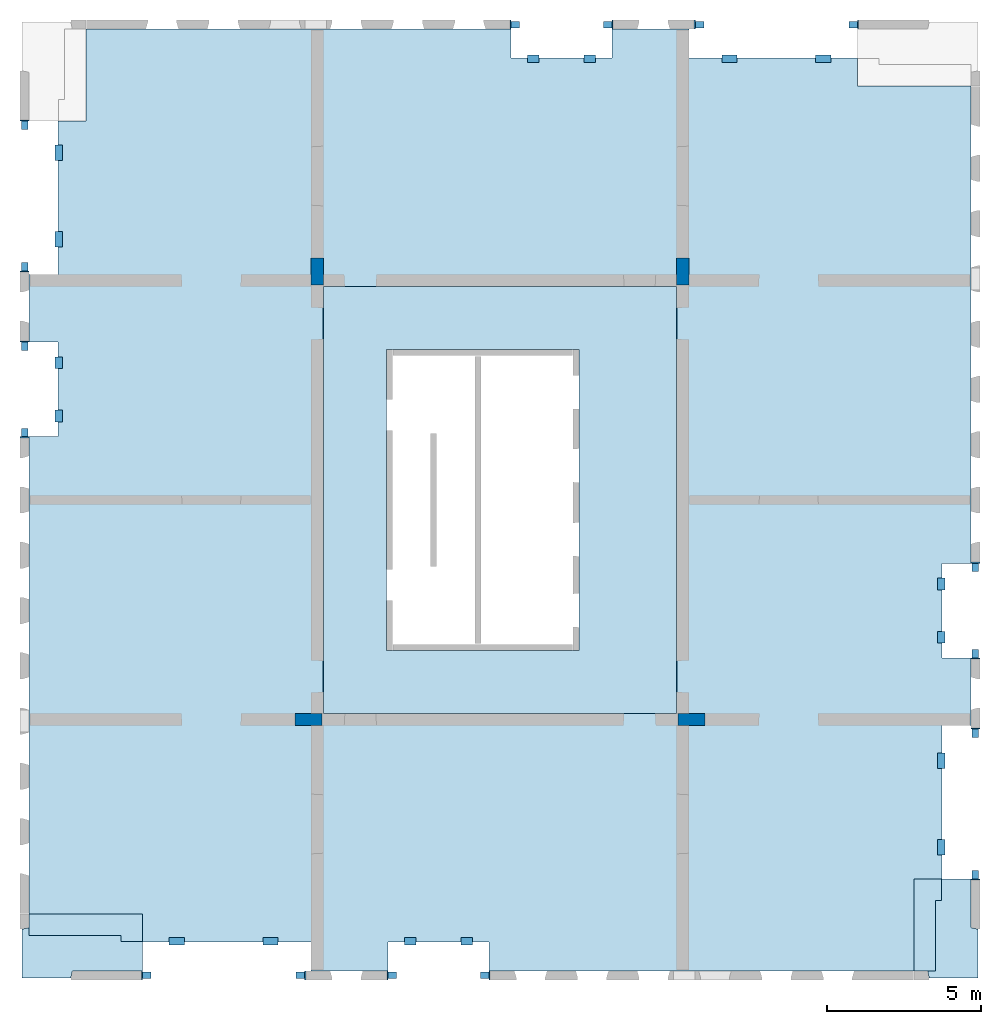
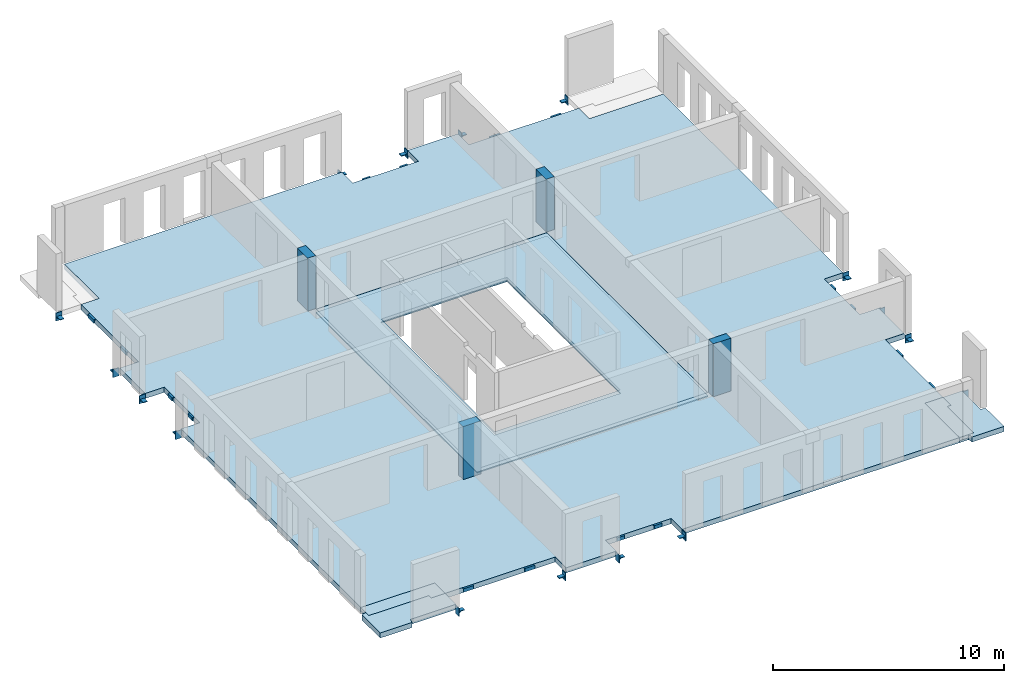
# One storey, part 1 of 4: 32 beams, 7 slabs, 4 columns, 3 openings.
"""IFC2X3 building model written with IfcOpenShell, lengths in millimetres."""

import ifcopenshell
import ifcopenshell.guid

model = None  # the IFC model being written
_history = None  # IfcOwnerHistory: only IFC2X3 demands one
_inside = {}  # id of a spatial element -> (the spatial element, [elements in it])
_under = {}  # id of a project, library or spatial element -> (it, [spatial elements below it])
_declared = {}  # id of a project -> (the project, [libraries it declares])
_typed = {}  # id of a type object -> (the type object, [elements of that type])
_made_of = {}  # id of a material, layer set ... -> (it, [elements and type objects made of it])


def new_model(schema):
    """Start an empty IFC model of exactly this schema.

    Asked for "IFC4X3", IfcOpenShell would pick the latest addendum, in which some entities
    have other attributes; the version numbers below select the first issue.
    IFC2X3 requires an IfcOwnerHistory on every rooted entity: one is made here for all.
    """
    global model, _history
    if schema == "IFC4X3":
        model = ifcopenshell.file(schema_version=(4, 3, 0, 0))
    else:
        model = ifcopenshell.file(schema=schema)
    _inside.clear()
    _under.clear()
    _declared.clear()
    _typed.clear()
    _made_of.clear()
    _history = None
    if model.schema == "IFC2X3":
        org = make("IfcOrganization", Name="unknown")
        user = make(
            "IfcPersonAndOrganization",
            ThePerson=make("IfcPerson", FamilyName="unknown"),
            TheOrganization=org,
        )
        app = make(
            "IfcApplication",
            ApplicationDeveloper=org,
            Version="unknown",
            ApplicationFullName="unknown",
            ApplicationIdentifier="unknown",
        )
        _history = make(
            "IfcOwnerHistory",
            OwningUser=user,
            OwningApplication=app,
            ChangeAction="ADDED",
            CreationDate=0,
        )
    return model


def make(cls, **values):
    """One entity of the class cls with the attributes given. An attribute that is None is left unset."""
    return model.create_entity(
        cls, **{name: value for name, value in values.items() if value is not None}
    )


def entity(cls, *values):
    """Any entity or typed value of the class cls, its attributes in the order of the schema. None: left unset."""
    e = model.create_entity(cls)
    for i, value in enumerate(values):
        if value is not None:
            e[i] = value
    return e


def rooted(cls, **values):
    """An entity with a GlobalId (a new one), such as an element, a storey or a relation."""
    return make(cls, GlobalId=ifcopenshell.guid.new(), OwnerHistory=_history, **values)


def si_unit(unit_type, name, prefix=None):
    """IfcSIUnit, for example si_unit("LENGTHUNIT", "METRE", prefix="MILLI")."""
    return make("IfcSIUnit", UnitType=unit_type, Prefix=prefix, Name=name)


def converted_unit(unit_type, name, factor, base, dimensions=None, offset=None):
    """IfcConversionBasedUnit, such as the inch: factor (a typed value) times the base unit."""
    return make(
        "IfcConversionBasedUnit"
        if offset is None
        else "IfcConversionBasedUnitWithOffset",
        ConversionOffset=offset,
        Dimensions=None
        if dimensions is None
        else entity("IfcDimensionalExponents", *dimensions),
        UnitType=unit_type,
        Name=name,
        ConversionFactor=make(
            "IfcMeasureWithUnit", ValueComponent=factor, UnitComponent=base
        ),
    )


def derived_unit(unit_type, elements):
    """IfcDerivedUnit: a product of units, each with its exponent."""
    return make(
        "IfcDerivedUnit",
        Elements=[
            make("IfcDerivedUnitElement", Unit=unit, Exponent=power)
            for unit, power in elements
        ],
        UnitType=unit_type,
    )


def assignment(units):
    """IfcUnitAssignment: the units of a project."""
    return None if units is None else make("IfcUnitAssignment", Units=units)


def point(xyz):
    """IfcCartesianPoint."""
    return None if xyz is None else make("IfcCartesianPoint", Coordinates=xyz)


def direction(xyz):
    """IfcDirection."""
    return None if xyz is None else make("IfcDirection", DirectionRatios=xyz)


def frame(location, z_axis=None, x_axis=None):
    """IfcAxis2Placement3D, a coordinate frame: its origin and axes. An axis left out is left unset."""
    return make(
        "IfcAxis2Placement3D",
        Location=point(location),
        Axis=direction(z_axis),
        RefDirection=direction(x_axis),
    )


def frame_2d(location, x_axis=None):
    """IfcAxis2Placement2D, a coordinate frame in the plane: its origin and x axis."""
    return make(
        "IfcAxis2Placement2D", Location=point(location), RefDirection=direction(x_axis)
    )


def origin():
    """The frame at (0, 0, 0) with its axes left unset."""
    return frame((0.0, 0.0, 0.0))


def origin_2d_with_axis():
    """The frame at (0, 0) in the plane with the x axis (1, 0) written out."""
    return frame_2d((0.0, 0.0), x_axis=(1.0, 0.0))


def place(relative_to, where):
    """IfcLocalPlacement: puts the frame where relative to a parent placement (None: the world)."""
    return make(
        "IfcLocalPlacement", PlacementRelTo=relative_to, RelativePlacement=where
    )


def context(
    kind, dimensions, precision=None, world=None, true_north=None, identifier=None
):
    """IfcGeometricRepresentationContext, for example the 3D "Model" context."""
    return make(
        "IfcGeometricRepresentationContext",
        ContextIdentifier=identifier,
        ContextType=kind,
        CoordinateSpaceDimension=dimensions,
        Precision=precision,
        WorldCoordinateSystem=world,
        TrueNorth=true_north,
    )


def subcontext(parent, identifier, kind, view, scale=None):
    """IfcGeometricRepresentationSubContext, for example "Body" below "Model"."""
    return make(
        "IfcGeometricRepresentationSubContext",
        ContextIdentifier=identifier,
        ContextType=kind,
        ParentContext=parent,
        TargetScale=scale,
        TargetView=view,
    )


def project(units=None, contexts=None):
    """IfcProject with its units and contexts."""
    return rooted(
        "IfcProject",
        Name="project",
        RepresentationContexts=contexts,
        UnitsInContext=assignment(units),
    )


def spatial(cls, under=None, at=None, **own):
    """A site, building, storey or space (cls), placed at a placement, below another one or the project."""
    s = rooted(cls, ObjectPlacement=at, **own)
    if under is not None:
        _under.setdefault(under.id(), (under, []))[1].append(s)
    return s


def polyline(points):
    """IfcPolyline through the points."""
    return make("IfcPolyline", Points=[point(p) for p in points])


def profile(cls, at=None, kind="AREA", **sizes):
    """A parametric profile (cls). Its sizes go by their IFC names, for example OverallWidth=200.0."""
    return make(cls, ProfileType=kind, Position=at, **sizes)


def rectangle(**sizes):
    """IfcRectangleProfileDef."""
    return profile("IfcRectangleProfileDef", **sizes)


def outline(outer, holes=None, kind="AREA"):
    """IfcArbitraryClosedProfileDef: a profile drawn as a closed curve; with holes, ...WithVoids."""
    if holes is None:
        return make("IfcArbitraryClosedProfileDef", ProfileType=kind, OuterCurve=outer)
    return make(
        "IfcArbitraryProfileDefWithVoids",
        ProfileType=kind,
        OuterCurve=outer,
        InnerCurves=holes,
    )


def extrude(swept, where, along, depth):
    """IfcExtrudedAreaSolid: the profile swept, set in the frame where, extruded along a direction by depth."""
    return make(
        "IfcExtrudedAreaSolid",
        SweptArea=swept,
        Position=where,
        ExtrudedDirection=direction(along),
        Depth=depth,
    )


def shape(context_of_items, identifier, shape_type, items):
    """IfcShapeRepresentation: the items that make up one representation, for example the "Body"."""
    return make(
        "IfcShapeRepresentation",
        ContextOfItems=context_of_items,
        RepresentationIdentifier=identifier,
        RepresentationType=shape_type,
        Items=items,
    )


def source(mapping_origin, context_of_items, identifier, shape_type, items):
    """IfcRepresentationMap: a shape defined once, which mapped items show again and again."""
    return make(
        "IfcRepresentationMap",
        MappingOrigin=mapping_origin,
        MappedRepresentation=shape(context_of_items, identifier, shape_type, items),
    )


def transform(
    local_origin,
    x_axis=None,
    y_axis=None,
    z_axis=None,
    scale=None,
    scale2=None,
    scale3=None,
    uniform=True,
):
    """IfcCartesianTransformationOperator3D, or its non-uniform kind. x_axis, y_axis, z_axis: its Axis1, 2, 3."""
    if uniform:
        return make(
            "IfcCartesianTransformationOperator3D",
            Axis1=direction(x_axis),
            Axis2=direction(y_axis),
            LocalOrigin=point(local_origin),
            Scale=scale,
            Axis3=direction(z_axis),
        )
    return make(
        "IfcCartesianTransformationOperator3DnonUniform",
        Axis1=direction(x_axis),
        Axis2=direction(y_axis),
        LocalOrigin=point(local_origin),
        Scale=scale,
        Axis3=direction(z_axis),
        Scale2=scale2,
        Scale3=scale3,
    )


def mapped(mapping_source, mapping_target):
    """IfcMappedItem: shows the shape of a source again, moved by a transform."""
    return make(
        "IfcMappedItem", MappingSource=mapping_source, MappingTarget=mapping_target
    )


def material(Name=None, Category=None):
    """IfcMaterial."""
    return make("IfcMaterial", Name=Name, Category=Category)


def layer(
    of_material, thickness, ventilated=None, Name=None, Category=None, Priority=None
):
    """IfcMaterialLayer: one layer of a wall or slab, of a material (None: an air gap)."""
    return make(
        "IfcMaterialLayer",
        Material=of_material,
        LayerThickness=thickness,
        IsVentilated=ventilated,
        Name=Name,
        Category=Category,
        Priority=Priority,
    )


def layer_set(layers, Name=None):
    """IfcMaterialLayerSet."""
    return make("IfcMaterialLayerSet", MaterialLayers=layers, LayerSetName=Name)


def layer_usage(for_layer_set, set_direction, sense, offset, extent=None):
    """IfcMaterialLayerSetUsage: how a layer set lies in its element."""
    return make(
        "IfcMaterialLayerSetUsage",
        ForLayerSet=for_layer_set,
        LayerSetDirection=set_direction,
        DirectionSense=sense,
        OffsetFromReferenceLine=offset,
        ReferenceExtent=extent,
    )


def made_of(thing, what):
    """Note that an element or type object is made of a material, layer set ...; save() writes the relation."""
    if what is not None:
        _made_of.setdefault(what.id(), (what, []))[1].append(thing)
    return thing


def type_object(cls, material=None, **own):
    """A type object (cls), such as IfcWallType, which elements share."""
    return made_of(rooted(cls, **own), material)


def type_shapes(of_type, sources):
    """Give a type object the sources (RepresentationMaps) that its elements show as mapped items."""
    of_type.RepresentationMaps = sources


def element(
    cls,
    number,
    at=None,
    inside=None,
    cuts=None,
    type_object=None,
    material=None,
    context=None,
    identifier="Body",
    shape_type=None,
    held_by="IfcProductDefinitionShape",
    body=None,
    shapes=None,
    **own,
):
    """One element of the class cls, such as IfcWall. Its Tag is "e" and its number.

    at: its placement. inside: the storey or other place that contains it. cuts: it is an
    opening in that element (IfcRelVoidsElement). A single representation is given by context,
    identifier, shape_type and body (its items); several are given by shapes. held_by: the class
    of the entity that holds the representations. save() writes the other relations.
    """
    e = rooted(cls, Tag="e%d" % number, ObjectPlacement=at, **own)
    if body is not None:
        shapes = [shape(context, identifier, shape_type, body)]
    if shapes is not None:
        e.Representation = make(held_by, Representations=shapes)
    if inside is not None:
        _inside.setdefault(inside.id(), (inside, []))[1].append(e)
    if cuts is not None:
        rooted(
            "IfcRelVoidsElement", RelatingBuildingElement=cuts, RelatedOpeningElement=e
        )
    if type_object is not None:
        _typed.setdefault(type_object.id(), (type_object, []))[1].append(e)
    return made_of(e, material)


def aggregate(whole, parts):
    """IfcRelAggregates: a whole, such as a stair, and the parts it consists of."""
    return rooted("IfcRelAggregates", RelatingObject=whole, RelatedObjects=parts)


def save(model, path):
    """Write the relations noted so far, then the file.

    IfcRelAggregates (storeys below a building ...), IfcRelContainedInSpatialStructure (elements
    in a storey), IfcRelDefinesByType, IfcRelAssociatesMaterial and IfcRelDeclares: one each for
    every whole, place, type object, material and project.
    """
    for whole, parts in _under.values():
        aggregate(whole, parts)
    for where, things in _inside.values():
        rooted(
            "IfcRelContainedInSpatialStructure",
            RelatedElements=things,
            RelatingStructure=where,
        )
    for kind, things in _typed.values():
        rooted("IfcRelDefinesByType", RelatedObjects=things, RelatingType=kind)
    for what, things in _made_of.values():
        rooted("IfcRelAssociatesMaterial", RelatedObjects=things, RelatingMaterial=what)
    for by, libraries in _declared.values():
        rooted("IfcRelDeclares", RelatingContext=by, RelatedDefinitions=libraries)
    model.write(path)


model = new_model("IFC2X3")

# Units and contexts
model_context = context("Model", 3, precision=0.01, world=origin(), true_north=direction((6.12303176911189e-17, 1.0)))
body_context = subcontext(model_context, "Body", "Model", "MODEL_VIEW")
ifc_project = project(units=[si_unit("LENGTHUNIT", "METRE", prefix="MILLI"), si_unit("AREAUNIT", "SQUARE_METRE"), si_unit("VOLUMEUNIT", "CUBIC_METRE"), converted_unit("PLANEANGLEUNIT", "DEGREE", entity("IfcRatioMeasure", 0.0174532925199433), si_unit("PLANEANGLEUNIT", "RADIAN"), dimensions=[0, 0, 0, 0, 0, 0, 0]), si_unit("MASSUNIT", "GRAM", prefix="KILO"), derived_unit("MASSDENSITYUNIT", [(si_unit("MASSUNIT", "GRAM", prefix="KILO"), 1), (si_unit("LENGTHUNIT", "METRE"), -3)]), si_unit("TIMEUNIT", "SECOND"), si_unit("FREQUENCYUNIT", "HERTZ"), si_unit("THERMODYNAMICTEMPERATUREUNIT", "DEGREE_CELSIUS"), derived_unit("THERMALTRANSMITTANCEUNIT", [(si_unit("MASSUNIT", "GRAM", prefix="KILO"), 1), (si_unit("THERMODYNAMICTEMPERATUREUNIT", "KELVIN"), -1), (si_unit("TIMEUNIT", "SECOND"), -3)]), derived_unit("VOLUMETRICFLOWRATEUNIT", [(si_unit("LENGTHUNIT", "METRE"), 3), (si_unit("TIMEUNIT", "SECOND"), -1)]), si_unit("ELECTRICCURRENTUNIT", "AMPERE"), si_unit("ELECTRICVOLTAGEUNIT", "VOLT"), si_unit("POWERUNIT", "WATT"), si_unit("FORCEUNIT", "NEWTON", prefix="KILO"), si_unit("ILLUMINANCEUNIT", "LUX"), si_unit("LUMINOUSFLUXUNIT", "LUMEN"), si_unit("LUMINOUSINTENSITYUNIT", "CANDELA"), derived_unit("USERDEFINED", [(si_unit("MASSUNIT", "GRAM", prefix="KILO"), -1), (si_unit("LENGTHUNIT", "METRE"), -2), (si_unit("TIMEUNIT", "SECOND"), 3), (si_unit("LUMINOUSFLUXUNIT", "LUMEN"), 1)]), derived_unit("LINEARVELOCITYUNIT", [(si_unit("LENGTHUNIT", "METRE"), 1), (si_unit("TIMEUNIT", "SECOND"), -1)]), si_unit("PRESSUREUNIT", "PASCAL"), derived_unit("USERDEFINED", [(si_unit("LENGTHUNIT", "METRE"), -2), (si_unit("MASSUNIT", "GRAM", prefix="KILO"), 1), (si_unit("TIMEUNIT", "SECOND"), -2)])], contexts=[model_context])

# Site, building, storey
site_placement = place(None, origin())
site = spatial("IfcSite", under=ifc_project, at=site_placement, Name="Default", CompositionType="ELEMENT")
building_placement = place(site_placement, origin())
building = spatial("IfcBuilding", under=site, at=building_placement, Name="niet gebruiken", CompositionType="ELEMENT")
storey_placement = place(building_placement, frame((0.0, 0.0, 88380.0)))
storey = spatial("IfcBuildingStorey", under=building, at=storey_placement, Name="28 achtentwintigste verdieping", CompositionType="ELEMENT", Elevation=88380.0000000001)

# Columns
ifc_material_1 = material(Name="NLRS_f2_beton ihwg")
column_type_1 = type_object("IfcColumnType", Name="400x880", PredefinedType="COLUMN", material=ifc_material_1)
shared_shape_1 = source(origin(), body_context, "Body", "SweptSolid", [
    extrude(rectangle(XDim=879.999999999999, YDim=399.999999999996, at=origin_2d_with_axis()), frame((135800.0, 24940.0, 88290.0), z_axis=(0.0, 0.0, 1.0), x_axis=(0.0, -1.0, 0.0)), (0.0, 0.0, 1.0), 2789.99999999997),
])
type_shapes(column_type_1, [shared_shape_1])
column_1_placement = place(storey_placement, frame((0.0, 0.0, -88380.0)))
element("IfcColumn", 1, at=column_1_placement, inside=storey, type_object=column_type_1, material=ifc_material_1, Name="NLRS_28.11_SCO_TLB_beton kolom ihwg_gen:400x880", ObjectType="400x880", context=body_context, shape_type="MappedRepresentation", body=[
    mapped(shared_shape_1, transform((0.0, 0.0, 0.0), scale=1.0)),
])
column_type_2 = type_object("IfcColumnType", Name="400x880", PredefinedType="COLUMN", material=ifc_material_1)
shared_shape_2 = source(origin(), body_context, "Body", "SweptSolid", [
    extrude(rectangle(XDim=879.999999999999, YDim=399.999999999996, at=origin_2d_with_axis()), frame((147700.0, 24940.0, 88290.0), z_axis=(0.0, 0.0, 1.0), x_axis=(0.0, -1.0, 0.0)), (0.0, 0.0, 1.0), 2789.99999999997),
])
type_shapes(column_type_2, [shared_shape_2])
column_2_placement = place(storey_placement, frame((0.0, 0.0, -88380.0)))
element("IfcColumn", 2, at=column_2_placement, inside=storey, type_object=column_type_2, material=ifc_material_1, Name="NLRS_28.11_SCO_TLB_beton kolom ihwg_gen:400x880", ObjectType="400x880", context=body_context, shape_type="MappedRepresentation", body=[
    mapped(shared_shape_2, transform((0.0, 0.0, 0.0), scale=1.0)),
])
column_type_3 = type_object("IfcColumnType", Name="400x880", PredefinedType="COLUMN", material=ifc_material_1)
shared_shape_3 = source(origin(), body_context, "Body", "SweptSolid", [
    extrude(rectangle(XDim=400.000000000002, YDim=880.000000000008, at=origin_2d_with_axis()), frame((135508.750788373, 10350.0, 88290.0), z_axis=(0.0, 0.0, 1.0), x_axis=(0.0, -1.0, 0.0)), (0.0, 0.0, 1.0), 2789.99999999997),
])
type_shapes(column_type_3, [shared_shape_3])
column_3_placement = place(storey_placement, frame((0.0, 0.0, -88380.0)))
element("IfcColumn", 3, at=column_3_placement, inside=storey, type_object=column_type_3, material=ifc_material_1, Name="NLRS_28.11_SCO_TLB_beton kolom ihwg_gen:400x880", ObjectType="400x880", context=body_context, shape_type="MappedRepresentation", body=[
    mapped(shared_shape_3, transform((0.0, 0.0, 0.0), scale=1.0)),
])
column_type_4 = type_object("IfcColumnType", Name="400x880", PredefinedType="COLUMN", material=ifc_material_1)
shared_shape_4 = source(origin(), body_context, "Body", "SweptSolid", [
    extrude(rectangle(XDim=400.000000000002, YDim=880.000000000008, at=origin_2d_with_axis()), frame((147990.0, 10350.0, 88290.0), z_axis=(0.0, 0.0, 1.0), x_axis=(0.0, -1.0, 0.0)), (0.0, 0.0, 1.0), 2789.99999999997),
])
type_shapes(column_type_4, [shared_shape_4])
column_4_placement = place(storey_placement, frame((0.0, 0.0, -88380.0)))
element("IfcColumn", 4, at=column_4_placement, inside=storey, type_object=column_type_4, material=ifc_material_1, Name="NLRS_28.11_SCO_TLB_beton kolom ihwg_gen:400x880", ObjectType="400x880", context=body_context, shape_type="MappedRepresentation", body=[
    mapped(shared_shape_4, transform((0.0, 0.0, 0.0), scale=1.0)),
])

# Beams
ifc_material_2 = material(Name="NLRS_h2_staal")
beam_type_1 = type_object("IfcBeamType", Name="NLRS_28.11_SF_WPB_stalen schoen 4_gen", PredefinedType="BEAM", material=ifc_material_2)
shared_shape_5 = source(origin(), body_context, "Body", "SweptSolid", [
    extrude(outline(polyline([(-69.4999999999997, -23.0), (8.49999999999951, -23.0), (30.5, -1.0), (30.5000000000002, 47.0), (-69.4999999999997, -23.0)])), frame((-105.0, -109.499999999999, -58.0), z_axis=(1.0, 0.0, 0.0), x_axis=(0.0, -1.0, 0.0)), (0.0, 0.0, 1.0), 35.0),
    extrude(outline(polyline([(-69.4999999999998, -23.0), (8.49999999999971, -23.0), (30.5, -1.0), (30.5000000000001, 47.0), (-69.4999999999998, -23.0)])), frame((70.0, -109.499999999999, -58.0), z_axis=(1.0, 0.0, 0.0), x_axis=(0.0, -1.0, 0.0)), (0.0, 0.0, 1.0), 35.0),
    extrude(rectangle(XDim=300.0, YDim=34.9999999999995, at=origin_2d_with_axis()), frame((0.0, -157.5, -230.0), z_axis=(0.0, 0.0, 1.0), x_axis=(-1.0, 0.0, 0.0)), (0.0, 0.0, 1.0), 420.0),
    extrude(rectangle(XDim=210.000000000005, YDim=274.999999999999, at=origin_2d_with_axis()), frame((0.0, -2.4999999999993, -35.0), z_axis=(0.0, 0.0, 1.0), x_axis=(-1.0, 0.0, 0.0)), (0.0, 0.0, 1.0), 35.0),
])
type_shapes(beam_type_1, [shared_shape_5])
beam_1_placement = place(storey_placement, frame((157230.0, 12500.0, -310.0)))
element("IfcBeam", 5, at=beam_1_placement, inside=storey, type_object=beam_type_1, material=ifc_material_2, Name="NLRS_28.11_SF_WPB_stalen schoen 4_gen:NLRS_28.11_SF_WPB_stalen schoen 4_gen", ObjectType="NLRS_28.11_SF_WPB_stalen schoen 4_gen", context=body_context, shape_type="MappedRepresentation", body=[
    mapped(shared_shape_5, transform((0.0, 0.0, 0.0), scale=1.0)),
])
for number, where, z_axis, x_axis, name in (
    (6, (157230.0, 15300.0, -310.0), (0.0, 0.0, 1.0), (-1.0, 0.0, 0.0), "NLRS_28.11_SF_WPB_stalen schoen 4_gen:NLRS_28.11_SF_WPB_stalen schoen 4_gen"),
    (7, (126270.0, 22500.0, -310.0), (0.0, 0.0, 1.0), (-1.0, 0.0, 0.0), "NLRS_28.11_SF_WPB_stalen schoen 4_gen:NLRS_28.11_SF_WPB_stalen schoen 4_gen"),
):
    element("IfcBeam", number, at=place(storey_placement, frame(where, z_axis=z_axis, x_axis=x_axis)), inside=storey, type_object=beam_type_1, material=ifc_material_2, Name=name, ObjectType="NLRS_28.11_SF_WPB_stalen schoen 4_gen", context=body_context, shape_type="MappedRepresentation", body=[
        mapped(shared_shape_5, transform((0.0, 0.0, 0.0), scale=1.0)),
    ])
beam_2_placement = place(storey_placement, frame((126270.0, 19700.0, -310.0)))
element("IfcBeam", 8, at=beam_2_placement, inside=storey, type_object=beam_type_1, material=ifc_material_2, Name="NLRS_28.11_SF_WPB_stalen schoen 4_gen:NLRS_28.11_SF_WPB_stalen schoen 4_gen", ObjectType="NLRS_28.11_SF_WPB_stalen schoen 4_gen", context=body_context, shape_type="MappedRepresentation", body=[
    mapped(shared_shape_5, transform((0.0, 0.0, 0.0), scale=1.0)),
])
for number, where, z_axis, x_axis, name in (
    (9, (138250.0, 2020.0, -310.0), (0.0, 0.0, 1.0), (0.0, -1.0, 0.0), "NLRS_28.11_SF_WPB_stalen schoen 4_gen:NLRS_28.11_SF_WPB_stalen schoen 4_gen"),
    (10, (141250.0, 2020.0, -310.0), (0.0, 0.0, 1.0), (0.0, 1.0, 0.0), "NLRS_28.11_SF_WPB_stalen schoen 4_gen:NLRS_28.11_SF_WPB_stalen schoen 4_gen"),
    (11, (145250.0, 32980.0, -310.0), (0.0, 0.0, 1.0), (0.0, 1.0, 0.0), "NLRS_28.11_SF_WPB_stalen schoen 4_gen:NLRS_28.11_SF_WPB_stalen schoen 4_gen"),
    (12, (142250.0, 32980.0, -310.0), (0.0, 0.0, 1.0), (0.0, -1.0, 0.0), "NLRS_28.11_SF_WPB_stalen schoen 4_gen:NLRS_28.11_SF_WPB_stalen schoen 4_gen"),
):
    element("IfcBeam", number, at=place(storey_placement, frame(where, z_axis=z_axis, x_axis=x_axis)), inside=storey, type_object=beam_type_1, material=ifc_material_2, Name=name, ObjectType="NLRS_28.11_SF_WPB_stalen schoen 4_gen", context=body_context, shape_type="MappedRepresentation", body=[
        mapped(shared_shape_5, transform((0.0, 0.0, 0.0), scale=1.0)),
    ])
beam_type_2 = type_object("IfcBeamType", Name="NLRS_28.11_SF_WPB_stalen schoen 3_gen", PredefinedType="BEAM", material=ifc_material_2)
shared_shape_6 = source(origin(), body_context, "Body", "SweptSolid", [
    extrude(outline(polyline([(-69.4999999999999, -23.0), (8.49999999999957, -23.0), (30.5000000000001, -1.0), (30.5000000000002, 47.0), (-69.4999999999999, -23.0)])), frame((-105.0, -109.499999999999, -63.0), z_axis=(1.0, 0.0, 0.0), x_axis=(0.0, -1.0, 0.0)), (0.0, 0.0, 1.0), 40.0),
    extrude(outline(polyline([(-69.4999999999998, -23.0), (8.49999999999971, -23.0), (30.5, -1.0), (30.5000000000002, 47.0), (-69.4999999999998, -23.0)])), frame((65.0, -109.499999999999, -63.0), z_axis=(1.0, 0.0, 0.0), x_axis=(0.0, -1.0, 0.0)), (0.0, 0.0, 1.0), 40.0),
    extrude(rectangle(XDim=300.0, YDim=39.9999999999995, at=origin_2d_with_axis()), frame((0.0, -160.0, -230.0), z_axis=(0.0, 0.0, 1.0), x_axis=(-1.0, 0.0, 0.0)), (0.0, 0.0, 1.0), 420.0),
    extrude(rectangle(XDim=210.000000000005, YDim=274.999999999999, at=origin_2d_with_axis()), frame((0.0, -2.49999999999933, -40.0), z_axis=(0.0, 0.0, 1.0), x_axis=(-1.0, 0.0, 0.0)), (0.0, 0.0, 1.0), 39.9999999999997),
])
type_shapes(beam_type_2, [shared_shape_6])
beam_3_placement = place(storey_placement, frame((157230.0, 9900.0, -310.0), z_axis=(0.0, 0.0, 1.0), x_axis=(-1.0, 0.0, 0.0)))
element("IfcBeam", 13, at=beam_3_placement, inside=storey, type_object=beam_type_2, material=ifc_material_2, Name="NLRS_28.11_SF_WPB_stalen schoen 3_gen:NLRS_28.11_SF_WPB_stalen schoen 3_gen", ObjectType="NLRS_28.11_SF_WPB_stalen schoen 3_gen", context=body_context, shape_type="MappedRepresentation", body=[
    mapped(shared_shape_6, transform((0.0, 0.0, 0.0), scale=1.0)),
])
for number, where, name in (
    (14, (157230.0, 5300.0, -310.0), "NLRS_28.11_SF_WPB_stalen schoen 3_gen:NLRS_28.11_SF_WPB_stalen schoen 3_gen"),
    (15, (126270.0, 25100.0, -310.0), "NLRS_28.11_SF_WPB_stalen schoen 3_gen:NLRS_28.11_SF_WPB_stalen schoen 3_gen"),
):
    element("IfcBeam", number, at=place(storey_placement, frame(where)), inside=storey, type_object=beam_type_2, material=ifc_material_2, Name=name, ObjectType="NLRS_28.11_SF_WPB_stalen schoen 3_gen", context=body_context, shape_type="MappedRepresentation", body=[
        mapped(shared_shape_6, transform((0.0, 0.0, 0.0), scale=1.0)),
    ])
for number, where, z_axis, x_axis, name in (
    (16, (126270.0, 29700.0, -310.0), (0.0, 0.0, 1.0), (-1.0, 0.0, 0.0), "NLRS_28.11_SF_WPB_stalen schoen 3_gen:NLRS_28.11_SF_WPB_stalen schoen 3_gen"),
    (17, (135250.0, 2020.0, -310.0), (0.0, 0.0, 1.0), (0.0, 1.0, 0.0), "NLRS_28.11_SF_WPB_stalen schoen 3_gen:NLRS_28.11_SF_WPB_stalen schoen 3_gen"),
    (18, (130250.0, 2020.0, -310.0), (0.0, 0.0, 1.0), (0.0, -1.0, 0.0), "NLRS_28.11_SF_WPB_stalen schoen 3_gen:NLRS_28.11_SF_WPB_stalen schoen 3_gen"),
    (19, (148250.0, 32980.0, -310.0), (0.0, 0.0, 1.0), (0.0, -1.0, 0.0), "NLRS_28.11_SF_WPB_stalen schoen 3_gen:NLRS_28.11_SF_WPB_stalen schoen 3_gen"),
    (20, (153250.0, 32980.0, -310.0), (0.0, 0.0, 1.0), (0.0, 1.0, 0.0), "NLRS_28.11_SF_WPB_stalen schoen 3_gen:NLRS_28.11_SF_WPB_stalen schoen 3_gen"),
):
    element("IfcBeam", number, at=place(storey_placement, frame(where, z_axis=z_axis, x_axis=x_axis)), inside=storey, type_object=beam_type_2, material=ifc_material_2, Name=name, ObjectType="NLRS_28.11_SF_WPB_stalen schoen 3_gen", context=body_context, shape_type="MappedRepresentation", body=[
        mapped(shared_shape_6, transform((0.0, 0.0, 0.0), scale=1.0)),
    ])
beam_type_3 = type_object("IfcBeamType", Name="NLRS_28.11_SF_WPB_stalen handje 7 lang 375_gen:NLRS_28.11_SF_WPB_stalen handje 7_gen", PredefinedType="BEAM")
beam_4_placement = place(storey_placement, frame((156235.125015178, 9255.24886461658, -93.0), z_axis=(0.0, 0.0, 1.0), x_axis=(0.0, -1.0, 0.0)))
element("IfcBeam", 21, at=beam_4_placement, inside=storey, type_object=beam_type_3, material=ifc_material_2, Name="NLRS_28.11_SF_WPB_stalen handje 7 lang 375_gen:NLRS_28.11_SF_WPB_stalen handje 7_gen", ObjectType="NLRS_28.11_SF_WPB_stalen handje 7 lang 375_gen:NLRS_28.11_SF_WPB_stalen handje 7_gen", context=body_context, shape_type="SweptSolid", body=[
    extrude(outline(polyline([(-70.6666666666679, -153.333333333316), (-40.6666666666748, -153.333333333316), (-40.6666666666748, 61.66666666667), (111.333333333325, 61.66666666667), (111.333333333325, 91.6666666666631), (-70.6666666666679, 91.6666666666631), (-70.6666666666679, -153.333333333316)])), frame((0.0, -91.6666666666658, -70.6666666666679), z_axis=(1.0, 0.0, 0.0), x_axis=(0.0, 0.0, -1.0)), (0.0, 0.0, 1.0), 500.000000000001),
])
beam_5_placement = place(storey_placement, frame((156235.125015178, 6445.24582437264, -93.0), z_axis=(0.0, 0.0, 1.0), x_axis=(0.0, -1.0, 0.0)))
element("IfcBeam", 22, at=beam_5_placement, inside=storey, type_object=beam_type_3, material=ifc_material_2, Name="NLRS_28.11_SF_WPB_stalen handje 7 lang 375_gen:NLRS_28.11_SF_WPB_stalen handje 7_gen", ObjectType="NLRS_28.11_SF_WPB_stalen handje 7 lang 375_gen:NLRS_28.11_SF_WPB_stalen handje 7_gen", context=body_context, shape_type="SweptSolid", body=[
    extrude(outline(polyline([(-70.6666666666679, -153.333333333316), (-40.6666666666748, -153.333333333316), (-40.6666666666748, 61.66666666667), (111.333333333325, 61.66666666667), (111.333333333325, 91.6666666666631), (-70.6666666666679, 91.6666666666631), (-70.6666666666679, -153.333333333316)])), frame((0.0, -91.6666666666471, -70.6666666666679), z_axis=(1.0, 0.0, 0.0), x_axis=(0.0, 0.0, -1.0)), (0.0, 0.0, 1.0), 500.000000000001),
])
beam_6_placement = place(storey_placement, frame((127264.874984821, 25744.7511353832, -93.0), z_axis=(0.0, 0.0, 1.0), x_axis=(0.0, 1.0, 0.0)))
element("IfcBeam", 23, at=beam_6_placement, inside=storey, type_object=beam_type_3, material=ifc_material_2, Name="NLRS_28.11_SF_WPB_stalen handje 7 lang 375_gen:NLRS_28.11_SF_WPB_stalen handje 7_gen", ObjectType="NLRS_28.11_SF_WPB_stalen handje 7 lang 375_gen:NLRS_28.11_SF_WPB_stalen handje 7_gen", context=body_context, shape_type="SweptSolid", body=[
    extrude(outline(polyline([(-70.6666666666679, -153.333333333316), (-40.6666666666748, -153.333333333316), (-40.6666666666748, 61.6666666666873), (111.333333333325, 61.66666666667), (111.333333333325, 91.6666666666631), (-70.6666666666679, 91.6666666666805), (-70.6666666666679, -153.333333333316)])), frame((0.0, -91.6666666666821, -70.6666666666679), z_axis=(1.0, 0.0, 0.0), x_axis=(0.0, 0.0, -1.0)), (0.0, 0.0, 1.0), 500.000000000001),
])
beam_7_placement = place(storey_placement, frame((127264.874984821, 28554.7541756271, -93.0), z_axis=(0.0, 0.0, 1.0), x_axis=(0.0, 1.0, 0.0)))
element("IfcBeam", 24, at=beam_7_placement, inside=storey, type_object=beam_type_3, material=ifc_material_2, Name="NLRS_28.11_SF_WPB_stalen handje 7 lang 375_gen:NLRS_28.11_SF_WPB_stalen handje 7_gen", ObjectType="NLRS_28.11_SF_WPB_stalen handje 7 lang 375_gen:NLRS_28.11_SF_WPB_stalen handje 7_gen", context=body_context, shape_type="SweptSolid", body=[
    extrude(outline(polyline([(-70.6666666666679, -153.33333333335), (-40.6666666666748, -153.33333333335), (-40.6666666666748, 61.6666666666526), (111.333333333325, 61.6666666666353), (111.333333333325, 91.6666666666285), (-70.6666666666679, 91.6666666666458), (-70.6666666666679, -153.33333333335)])), frame((0.0, -91.6666666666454, -70.6666666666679), z_axis=(1.0, 0.0, 0.0), x_axis=(0.0, 0.0, -1.0)), (0.0, 0.0, 1.0), 500.000000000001),
])
for number, where, z_axis, x_axis, name in (
    (25, (140862.631597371, 3015.23611279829, -93.0), (0.0, 0.0, 1.0), (-1.0, 0.0, 0.0), "NLRS_28.11_SF_WPB_stalen handje 7 lang 375_gen:NLRS_28.11_SF_WPB_stalen handje 7_gen"),
    (26, (139012.628555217, 3015.23611279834, -93.0), (0.0, 0.0, 1.0), (-1.0, 0.0, 0.0), "NLRS_28.11_SF_WPB_stalen handje 7 lang 375_gen:NLRS_28.11_SF_WPB_stalen handje 7_gen"),
):
    element("IfcBeam", number, at=place(storey_placement, frame(where, z_axis=z_axis, x_axis=x_axis)), inside=storey, type_object=beam_type_3, material=ifc_material_2, Name=name, ObjectType="NLRS_28.11_SF_WPB_stalen handje 7 lang 375_gen:NLRS_28.11_SF_WPB_stalen handje 7_gen", context=body_context, shape_type="SweptSolid", body=[
        extrude(outline(polyline([(-70.6666666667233, -153.333333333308), (-40.6666666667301, -153.333333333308), (-40.6666666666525, 61.6666666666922), (111.333333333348, 61.6666666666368), (111.333333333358, 91.6666666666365), (-70.6666666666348, 91.6666666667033), (-70.6666666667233, -153.333333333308)])), frame((0.0, -91.6666666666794, -70.6666666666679), z_axis=(1.0, 0.0, 0.0), x_axis=(0.0, 0.0, -1.0)), (0.0, 0.0, 1.0), 375.000000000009),
    ])
for number, where, z_axis, x_axis, name in (
    (27, (134525.131597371, 3015.23611279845, -93.0), (0.0, 0.0, 1.0), (-1.0, 0.0, 0.0), "NLRS_28.11_SF_WPB_stalen handje 7 lang 375_gen:NLRS_28.11_SF_WPB_stalen handje 7_gen"),
    (28, (131475.128555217, 3015.23611279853, -93.0), (0.0, 0.0, 1.0), (-1.0, 0.0, 0.0), "NLRS_28.11_SF_WPB_stalen handje 7 lang 375_gen:NLRS_28.11_SF_WPB_stalen handje 7_gen"),
):
    element("IfcBeam", number, at=place(storey_placement, frame(where, z_axis=z_axis, x_axis=x_axis)), inside=storey, type_object=beam_type_3, material=ifc_material_2, Name=name, ObjectType="NLRS_28.11_SF_WPB_stalen handje 7 lang 375_gen:NLRS_28.11_SF_WPB_stalen handje 7_gen", context=body_context, shape_type="SweptSolid", body=[
        extrude(outline(polyline([(-70.6666666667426, -153.333333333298), (-40.6666666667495, -153.333333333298), (-40.6666666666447, 61.6666666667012), (111.333333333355, 61.6666666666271), (111.33333333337, 91.6666666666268), (-70.6666666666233, 91.666666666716), (-70.6666666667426, -153.333333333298)])), frame((0.0, -91.6666666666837, -70.6666666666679), z_axis=(1.0, 0.0, 0.0), x_axis=(0.0, 0.0, -1.0)), (0.0, 0.0, 1.0), 500.000000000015),
    ])
for number, where, name in (
    (29, (142637.368402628, 31984.7638872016, -93.0), "NLRS_28.11_SF_WPB_stalen handje 7 lang 375_gen:NLRS_28.11_SF_WPB_stalen handje 7_gen"),
    (30, (144487.371444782, 31984.7638872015, -93.0), "NLRS_28.11_SF_WPB_stalen handje 7 lang 375_gen:NLRS_28.11_SF_WPB_stalen handje 7_gen"),
):
    element("IfcBeam", number, at=place(storey_placement, frame(where)), inside=storey, type_object=beam_type_3, material=ifc_material_2, Name=name, ObjectType="NLRS_28.11_SF_WPB_stalen handje 7 lang 375_gen:NLRS_28.11_SF_WPB_stalen handje 7_gen", context=body_context, shape_type="SweptSolid", body=[
        extrude(outline(polyline([(-70.6666666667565, -153.333333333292), (-40.6666666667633, -153.333333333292), (-40.6666666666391, 61.6666666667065), (111.333333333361, 61.6666666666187), (111.333333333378, 91.6666666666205), (-70.666666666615, 91.6666666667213), (-70.6666666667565, -153.333333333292)])), frame((0.0, -91.6666666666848, -70.6666666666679), z_axis=(1.0, 0.0, 0.0), x_axis=(0.0, 0.0, -1.0)), (0.0, 0.0, 1.0), 375.000000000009),
    ])
for number, where, name in (
    (31, (148974.868402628, 31984.7638872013, -93.0), "NLRS_28.11_SF_WPB_stalen handje 7 lang 375_gen:NLRS_28.11_SF_WPB_stalen handje 7_gen"),
    (32, (152024.871444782, 31984.7638872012, -93.0), "NLRS_28.11_SF_WPB_stalen handje 7 lang 375_gen:NLRS_28.11_SF_WPB_stalen handje 7_gen"),
):
    element("IfcBeam", number, at=place(storey_placement, frame(where)), inside=storey, type_object=beam_type_3, material=ifc_material_2, Name=name, ObjectType="NLRS_28.11_SF_WPB_stalen handje 7 lang 375_gen:NLRS_28.11_SF_WPB_stalen handje 7_gen", context=body_context, shape_type="SweptSolid", body=[
        extrude(outline(polyline([(-70.6666666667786, -153.333333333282), (-40.6666666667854, -153.333333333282), (-40.6666666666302, 61.666666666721), (111.33333333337, 61.6666666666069), (111.333333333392, 91.6666666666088), (-70.6666666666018, 91.6666666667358), (-70.6666666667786, -153.333333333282)])), frame((0.0, -91.6666666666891, -70.6666666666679), z_axis=(1.0, 0.0, 0.0), x_axis=(0.0, 0.0, -1.0)), (0.0, 0.0, 1.0), 500.000000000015),
    ])
beam_8_placement = place(storey_placement, frame((156235.0, 14952.5097115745, -93.0), z_axis=(0.0, 0.0, 1.0), x_axis=(0.0, -1.0, 0.0)))
element("IfcBeam", 33, at=beam_8_placement, inside=storey, type_object=beam_type_3, material=ifc_material_2, Name="NLRS_28.11_SF_WPB_stalen handje 7 lang 375_gen:NLRS_28.11_SF_WPB_stalen handje 7_gen", ObjectType="NLRS_28.11_SF_WPB_stalen handje 7 lang 375_gen:NLRS_28.11_SF_WPB_stalen handje 7_gen", context=body_context, shape_type="SweptSolid", body=[
    extrude(outline(polyline([(-70.6666666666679, -153.333333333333), (-40.6666666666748, -153.333333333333), (-40.6666666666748, 61.66666666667), (111.333333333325, 61.66666666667), (111.333333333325, 91.6666666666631), (-70.6666666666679, 91.6666666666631), (-70.6666666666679, -153.333333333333)])), frame((0.0, -91.6666666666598, -70.6666666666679), z_axis=(1.0, 0.0, 0.0), x_axis=(0.0, 0.0, -1.0)), (0.0, 0.0, 1.0), 375.000000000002),
])
beam_9_placement = place(storey_placement, frame((156235.0, 13222.5097115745, -93.0), z_axis=(0.0, 0.0, 1.0), x_axis=(0.0, -1.0, 0.0)))
element("IfcBeam", 34, at=beam_9_placement, inside=storey, type_object=beam_type_3, material=ifc_material_2, Name="NLRS_28.11_SF_WPB_stalen handje 7 lang 375_gen:NLRS_28.11_SF_WPB_stalen handje 7_gen", ObjectType="NLRS_28.11_SF_WPB_stalen handje 7 lang 375_gen:NLRS_28.11_SF_WPB_stalen handje 7_gen", context=body_context, shape_type="SweptSolid", body=[
    extrude(outline(polyline([(-70.6666666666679, -153.333333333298), (-40.6666666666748, -153.333333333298), (-40.6666666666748, 61.6666666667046), (111.333333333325, 61.6666666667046), (111.333333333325, 91.6666666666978), (-70.6666666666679, 91.6666666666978), (-70.6666666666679, -153.333333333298)])), frame((0.0, -91.6666666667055, -70.6666666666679), z_axis=(1.0, 0.0, 0.0), x_axis=(0.0, 0.0, -1.0)), (0.0, 0.0, 1.0), 375.000000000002),
])
beam_10_placement = place(storey_placement, frame((127265.0, 20047.4902884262, -93.0), z_axis=(0.0, 0.0, 1.0), x_axis=(0.0, 1.0, 0.0)))
element("IfcBeam", 35, at=beam_10_placement, inside=storey, type_object=beam_type_3, material=ifc_material_2, Name="NLRS_28.11_SF_WPB_stalen handje 7 lang 375_gen:NLRS_28.11_SF_WPB_stalen handje 7_gen", ObjectType="NLRS_28.11_SF_WPB_stalen handje 7 lang 375_gen:NLRS_28.11_SF_WPB_stalen handje 7_gen", context=body_context, shape_type="SweptSolid", body=[
    extrude(outline(polyline([(-70.6666666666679, -153.33333333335), (-40.6666666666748, -153.33333333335), (-40.6666666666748, 61.6666666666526), (111.333333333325, 61.6666666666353), (111.333333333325, 91.6666666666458), (-70.6666666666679, 91.6666666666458), (-70.6666666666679, -153.33333333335)])), frame((0.0, -91.6666666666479, -70.6666666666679), z_axis=(1.0, 0.0, 0.0), x_axis=(0.0, 0.0, -1.0)), (0.0, 0.0, 1.0), 375.000000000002),
])
beam_11_placement = place(storey_placement, frame((127265.0, 21777.4902884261, -93.0), z_axis=(0.0, 0.0, 1.0), x_axis=(0.0, 1.0, 0.0)))
element("IfcBeam", 36, at=beam_11_placement, inside=storey, type_object=beam_type_3, material=ifc_material_2, Name="NLRS_28.11_SF_WPB_stalen handje 7 lang 375_gen:NLRS_28.11_SF_WPB_stalen handje 7_gen", ObjectType="NLRS_28.11_SF_WPB_stalen handje 7 lang 375_gen:NLRS_28.11_SF_WPB_stalen handje 7_gen", context=body_context, shape_type="SweptSolid", body=[
    extrude(outline(polyline([(-70.6666666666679, -153.333333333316), (-40.6666666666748, -153.333333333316), (-40.6666666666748, 61.6666666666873), (111.333333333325, 61.66666666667), (111.333333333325, 91.6666666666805), (-70.6666666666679, 91.6666666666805), (-70.6666666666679, -153.333333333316)])), frame((0.0, -91.6666666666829, -70.6666666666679), z_axis=(1.0, 0.0, 0.0), x_axis=(0.0, 0.0, -1.0)), (0.0, 0.0, 1.0), 375.000000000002),
])

# Slabs
ifc_material_3 = material(Name="NLRS_f2_beton prefab")
ifc_layer_1 = layer(ifc_material_3, 270.0)
ifc_layer_set_1 = layer_set([ifc_layer_1], Name="Floor:NLRS_23.22_FL_beton prefab d=270 3D element_gen")
ifc_layer_usage_1 = layer_usage(ifc_layer_set_1, "AXIS3", "POSITIVE", 0.0)
slab_1_placement = place(storey_placement, origin())
element("IfcSlab", 37, at=slab_1_placement, inside=storey, material=ifc_layer_usage_1, Name="Floor:NLRS_23.22_FL_beton prefab d=270 3D element_gen", ObjectType="Floor:NLRS_23.22_FL_beton prefab d=270 3D element_gen", PredefinedType="LANDING", context=body_context, shape_type="SweptSolid", body=[
    extrude(outline(polyline([(-1034.47139498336, -1100.52860501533), (1955.52860501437, -1100.52860501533), (1955.52860501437, 749.471394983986), (370.152429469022, 749.471394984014), (322.675940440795, 982.471394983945), (-1267.47139498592, 982.471394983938), (-1267.47139498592, -607.675940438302), (-1034.47139498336, -655.152429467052), (-1034.47139498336, -1100.52860501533)])), frame((156330.528605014, 3204.47139498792, -90.0), z_axis=(0.0, 0.0, -1.0), x_axis=(0.0, 1.0, 0.0)), (0.0, 0.0, 1.0), 270.000000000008),
])
ifc_layer_2 = layer(ifc_material_1, 170.0)
ifc_layer_set_2 = layer_set([ifc_layer_2], Name="Floor:NLRS_23.21_FL_beton ihwg d=170_gen")
ifc_layer_usage_2 = layer_usage(ifc_layer_set_2, "AXIS3", "POSITIVE", 0.0)
slab_2_placement = place(storey_placement, origin())
element("IfcSlab", 38, at=slab_2_placement, inside=storey, material=ifc_layer_usage_2, Name="Floor:NLRS_23.21_FL_beton ihwg d=170_gen", ObjectType="Floor:NLRS_23.21_FL_beton ihwg d=170_gen", PredefinedType="FLOOR", context=body_context, shape_type="SweptSolid", body=[
    extrude(outline(polyline([(-1760.0, -533.33333333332), (1230.0, -533.33333333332), (1230.0, 366.666666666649), (530.0, 366.666666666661), (530.0, 166.666666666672), (-1760.0, 166.666666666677), (-1760.0, -533.33333333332)])), frame((155763.333333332, 3930.0, -90.0), z_axis=(0.0, 0.0, -1.0), x_axis=(0.0, 1.0, 0.0)), (0.0, 0.0, 1.0), 169.999999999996),
])
ifc_layer_usage_3 = layer_usage(ifc_layer_set_1, "AXIS3", "POSITIVE", 0.0)
slab_3_placement = place(storey_placement, origin())
element("IfcSlab", 39, at=slab_3_placement, inside=storey, material=ifc_layer_usage_3, Name="Floor:NLRS_23.22_FL_beton prefab d=270 3D element_gen", ObjectType="Floor:NLRS_23.22_FL_beton prefab d=270 3D element_gen", PredefinedType="LANDING", context=body_context, shape_type="SweptSolid", body=[
    extrude(outline(polyline([(-982.471394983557, -1442.47139498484), (607.67594043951, -1442.47139498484), (655.152429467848, -1209.47139498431), (1100.52860501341, -1209.47139498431), (1100.52860501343, 2480.5286050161), (-749.471394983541, 2480.5286050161), (-749.471394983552, 195.15242946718), (-982.47139498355, 147.675940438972), (-982.471394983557, -1442.47139498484)])), frame((127629.471394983, 2919.47139499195, -90.0), z_axis=(0.0, 0.0, -1.0), x_axis=(0.0, 1.0, 0.0)), (0.0, 0.0, 1.0), 270.000000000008),
])
ifc_layer_usage_4 = layer_usage(ifc_layer_set_2, "AXIS3", "POSITIVE", 0.0)
slab_4_placement = place(storey_placement, origin())
element("IfcSlab", 40, at=slab_4_placement, inside=storey, material=ifc_layer_usage_4, Name="Floor:NLRS_23.21_FL_beton ihwg d=170_gen", ObjectType="Floor:NLRS_23.21_FL_beton ihwg d=170_gen", PredefinedType="FLOOR", context=body_context, shape_type="SweptSolid", body=[
    extrude(outline(polyline([(-166.666666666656, -2226.66666666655), (533.333333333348, -2226.66666666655), (533.333333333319, 1463.33333333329), (-366.666666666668, 1463.33333333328), (-366.666666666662, 763.333333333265), (-166.666666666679, 763.333333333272), (-166.666666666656, -2226.66666666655)])), frame((128646.666666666, 3486.66666667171, -90.0), z_axis=(0.0, 0.0, -1.0), x_axis=(0.0, 1.0, 0.0)), (0.0, 0.0, 1.0), 169.999999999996),
])

# Slab, opening
ifc_layer_3 = layer(ifc_material_1, 230.0)
ifc_layer_set_3 = layer_set([ifc_layer_3], Name="Floor:NLRS_23.21_FL_vloer=230_gen")
ifc_layer_usage_5 = layer_usage(ifc_layer_set_3, "AXIS3", "POSITIVE", 0.0)
slab_5_placement = place(storey_placement, frame((136000.0, 10549.7638872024, -320.0)))
slab_5 = element("IfcSlab", 41, at=slab_5_placement, inside=storey, material=ifc_layer_usage_5, Name="Floor:NLRS_23.21_FL_vloer=230_gen", ObjectType="Floor:NLRS_23.21_FL_vloer=230_gen", PredefinedType="FLOOR", context=body_context, shape_type="SweptSolid", body=[
    extrude(rectangle(XDim=13900.2361127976, YDim=11500.0, at=frame_2d((0.0, 0.0), x_axis=(0.0, -1.0))), frame((5750.0, 6950.11805639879, 230.0), z_axis=(0.0, 0.0, -1.0), x_axis=(-1.0, 0.0, 0.0)), (0.0, 0.0, 1.0), 230.0),
])
opening_1_placement = place(slab_5_placement, frame((5190.0, 6950.23611279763, 230.0)))
element("IfcOpeningElement", 42, at=opening_1_placement, cuts=slab_5, Name="Floor:NLRS_23.21_FL_vloer=230_gen:2", ObjectType="Opening", context=body_context, shape_type="SweptSolid", body=[
    extrude(rectangle(XDim=9800.0, YDim=6279.99999999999, at=origin_2d_with_axis()), frame((0.0, 0.0, 0.0), z_axis=(0.0, 0.0, -1.0), x_axis=(0.0, -1.0, 0.0)), (0.0, 0.0, 1.0), 230.0),
])

ifc_layer_4 = layer(ifc_material_1, 170.0)
ifc_layer_5 = layer(ifc_material_3, 100.0)
ifc_layer_set_4 = layer_set([ifc_layer_4, ifc_layer_5], Name="Floor:NLRS_23.21_FL_breedplaat d=100/270_gen")
ifc_layer_usage_6 = layer_usage(ifc_layer_set_4, "AXIS3", "POSITIVE", 0.0)
slab_6_placement = place(storey_placement, frame((126420.0, 2170.0, -360.0)))
slab_6 = element("IfcSlab", 43, at=slab_6_placement, inside=storey, material=ifc_layer_usage_6, Name="Floor:NLRS_23.21_FL_breedplaat d=100/270_gen", ObjectType="Floor:NLRS_23.21_FL_breedplaat d=100/270_gen", PredefinedType="FLOOR", context=body_context, shape_type="SweptSolid", body=[
    extrude(outline(polyline([(-360.0, 15330.0), (-360.0, 14385.0), (-3640.0, 14385.0), (-3640.0, 15330.0), (-6150.0, 15330.0), (-6150.0, 14385.0), (-11640.0, 14385.0), (-11640.0, 13480.0), (-15330.0, 13480.0), (-15330.0, -2060.0), (-14385.0, -2060.0), (-14385.0, -5140.0), (-15330.0, -5140.0), (-15330.0, -7350.0), (-14385.0, -7350.0), (-14385.0, -12340.0), (-13480.0, -12340.0), (-13480.0, -15330.0), (360.0, -15330.0), (360.0, -14385.0), (3640.0, -14385.0), (3640.0, -15330.0), (6150.0, -15330.0), (6150.0, -14385.0), (11640.0, -14385.0), (11640.0, -13480.0), (15330.0, -13480.0), (15330.0, 2060.0), (14385.0, 2060.0), (14385.0, 5140.0), (15330.0, 5140.0), (15330.0, 7350.0), (14385.0, 7350.0), (14385.0, 12340.0), (13480.0, 12340.0), (13480.0, 15330.0), (-360.0, 15330.0)])), frame((15330.0, 15330.0, 270.0), z_axis=(0.0, 0.0, -1.0), x_axis=(-1.0, 0.0, 0.0)), (0.0, 0.0, 1.0), 270.000000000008),
])
opening_2_placement = place(slab_6_placement, frame((15330.0, 15330.0, 270.0)))
element("IfcOpeningElement", 44, at=opening_2_placement, cuts=slab_6, Name="Floor:NLRS_23.21_FL_breedplaat d=100/270_gen:2", ObjectType="Opening", context=body_context, shape_type="SweptSolid", body=[
    extrude(rectangle(XDim=13899.9999999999, YDim=11500.0, at=origin_2d_with_axis()), frame((0.0, 0.0, 0.0), z_axis=(0.0, 0.0, -1.0), x_axis=(0.0, -1.0, 0.0)), (0.0, 0.0, 1.0), 270.000000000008),
])

ifc_layer_6 = layer(ifc_material_3, 60.0)
ifc_layer_set_5 = layer_set([ifc_layer_6], Name="Floor:NLRS_23.21_FL_breedplaat d=60_gen")
ifc_layer_usage_7 = layer_usage(ifc_layer_set_5, "AXIS3", "POSITIVE", 0.0)
slab_7_placement = place(storey_placement, frame((135990.0, 10540.0, -320.0)))
slab_7 = element("IfcSlab", 45, at=slab_7_placement, inside=storey, material=ifc_layer_usage_7, Name="Floor:NLRS_23.21_FL_breedplaat d=60_gen", ObjectType="Floor:NLRS_23.21_FL_breedplaat d=60_gen", PredefinedType="FLOOR", context=body_context, shape_type="SweptSolid", body=[
    extrude(rectangle(XDim=13919.9999999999, YDim=11520.0, at=frame_2d((0.0, 0.0), x_axis=(0.0, -1.0))), frame((5760.0, 6960.0, 60.0), z_axis=(0.0, 0.0, -1.0), x_axis=(-1.0, 0.0, 0.0)), (0.0, 0.0, 1.0), 60.0000000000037),
])
opening_3_placement = place(slab_7_placement, frame((5200.0, 6960.0, 60.0)))
element("IfcOpeningElement", 46, at=opening_3_placement, cuts=slab_7, Name="Floor:NLRS_23.21_FL_breedplaat d=60_gen:2", ObjectType="Opening", context=body_context, shape_type="SweptSolid", body=[
    extrude(rectangle(XDim=9820.0, YDim=6299.99999999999, at=origin_2d_with_axis()), frame((0.0, 0.0, 0.0), z_axis=(0.0, 0.0, -1.0), x_axis=(0.0, -1.0, 0.0)), (0.0, 0.0, 1.0), 60.0000000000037),
])

save(model, "model.ifc")
